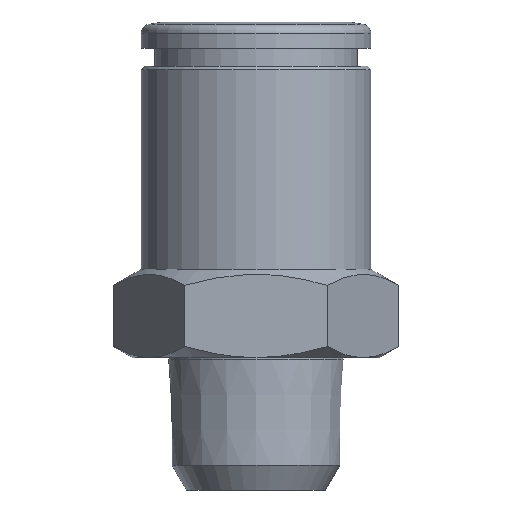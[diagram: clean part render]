
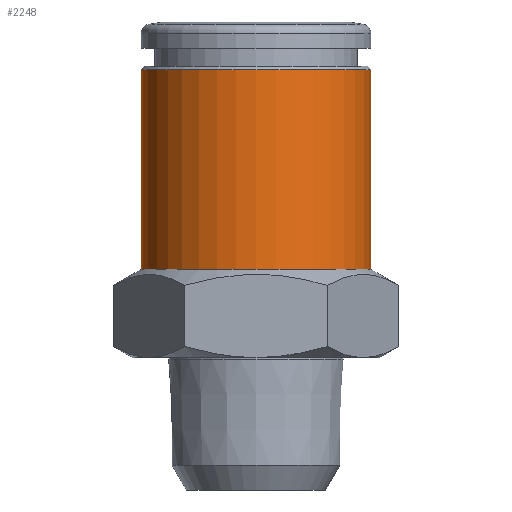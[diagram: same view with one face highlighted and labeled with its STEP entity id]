
A CAD part, front view. The second image highlights one B-rep face of the part: STEP entity #2248.
In plain terms, the highlighted cylindrical face has radius 6.5 mm (diameter 13 mm), a full revolution.
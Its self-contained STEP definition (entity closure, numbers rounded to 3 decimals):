
#1053=CYLINDRICAL_SURFACE('',#2124,6.5);
#1109=ORIENTED_EDGE('',*,*,#1380,.T.);
#1110=ORIENTED_EDGE('',*,*,#1379,.F.);
#1269=CIRCLE('',#2123,6.5);
#1270=CIRCLE('',#2125,6.5);
#1315=VERTEX_POINT('',#1928);
#1316=VERTEX_POINT('',#1931);
#1379=EDGE_CURVE('',#1315,#1315,#1269,.T.);
#1380=EDGE_CURVE('',#1316,#1316,#1270,.T.);
#1472=EDGE_LOOP('',(#1109));
#1473=EDGE_LOOP('',(#1110));
#1556=FACE_BOUND('',#1472,.T.);
#1557=FACE_BOUND('',#1473,.T.);
#1670=DIRECTION('',(0.,1.,0.));
#1671=DIRECTION('',(6.5,0.,0.));
#1672=DIRECTION('',(0.,1.,0.));
#1673=DIRECTION('',(1.,0.,0.));
#1674=DIRECTION('',(0.,1.,0.));
#1675=DIRECTION('',(6.5,0.,0.));
#1928=CARTESIAN_POINT('',(34.034,40.09,0.));
#1929=CARTESIAN_POINT('',(27.534,40.09,0.));
#1930=CARTESIAN_POINT('',(27.534,28.79,0.));
#1931=CARTESIAN_POINT('',(34.034,28.79,0.));
#1932=CARTESIAN_POINT('',(27.534,28.79,0.));
#2123=AXIS2_PLACEMENT_3D('',#1929,#1670,#1671);
#2124=AXIS2_PLACEMENT_3D('',#1930,#1672,#1673);
#2125=AXIS2_PLACEMENT_3D('',#1932,#1674,#1675);
#2248=ADVANCED_FACE('',(#1556,#1557),#1053,.T.);
